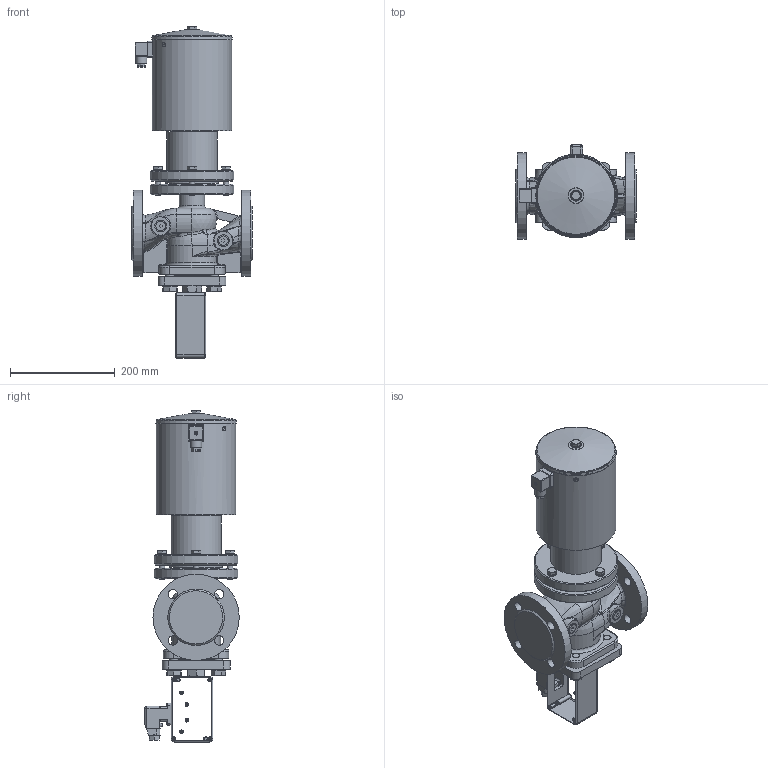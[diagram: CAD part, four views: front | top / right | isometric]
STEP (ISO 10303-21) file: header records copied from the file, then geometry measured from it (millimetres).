
FILE_DESCRIPTION((''),'2;1');
FILE_NAME('G:\CAD-Download\EVO\1-EVO\DN 20\1-EVO 20NH-4R.00.32.53.64.99.stp','2010-05-17T07:29:40',('hb'),(''),'Autodesk Inventor 2008','Autodesk Inventor 2008','');
FILE_SCHEMA(('AUTOMOTIVE_DESIGN { 1 0 10303 214 1 1 1 1 }'));
Length unit declared in the file: millimetre
Products named in the file (1): Bauteil2
Bounding box: 230 x 180.7 x 634.8 mm (x, y, z)
Volume: 8052382 mm3; surface area: 541768.5 mm2
Topology: 1 solids, 1 shells, 1121 faces, 2860 edges, 1791 vertices
Faces by surface type: plane 463, bspline 244, cylinder 195, cone 147, torus 51, sphere 21
Full cylindrical faces by diameter (mm): 3.621 x4, 4 x4, 5.5 x1, 5.9 x2, 6.4 x1, 6.9 x1, 10 x12, 14.63 x5, 16 x8, 18 x8, 21.5 x1, 22.49 x4, 22.5 x2, 24 x1, 35 x2, 48 x1, 82 x1, 87.8 x2, 96 x1, 100 x1, 147.5 x1, 150 x2, 152.4 x1, 160 x2, 165 x1
Entity records: 49078 total; most frequent: CARTESIAN_POINT 23634, ORIENTED_EDGE 5218, DIRECTION 4719, EDGE_CURVE 2609, AXIS2_PLACEMENT_3D 1901, VERTEX_POINT 1710, EDGE_LOOP 1423, FACE_OUTER_BOUND 1121
